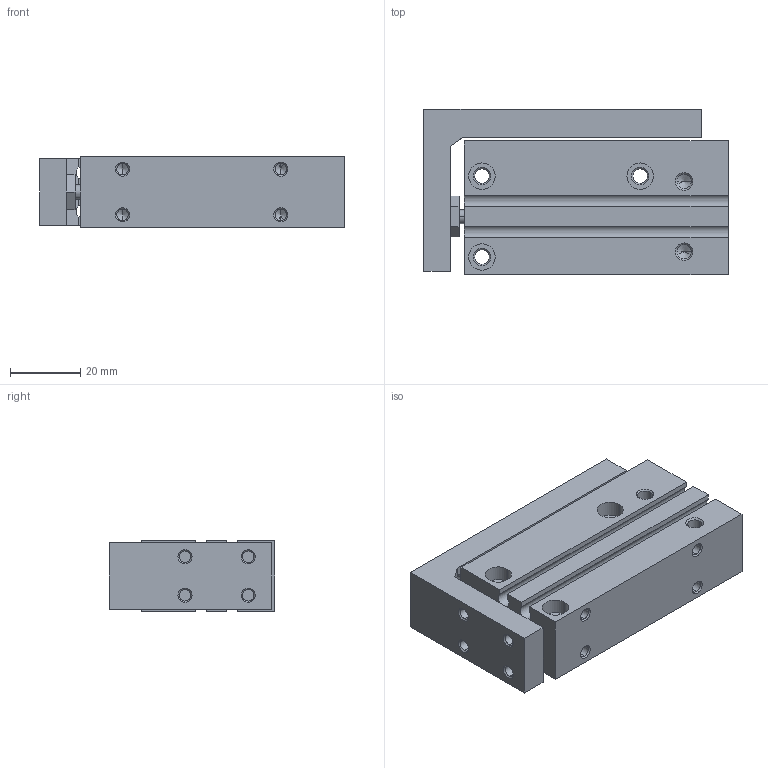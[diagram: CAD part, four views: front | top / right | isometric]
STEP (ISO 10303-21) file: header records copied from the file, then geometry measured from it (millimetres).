
FILE_DESCRIPTION (( 'STEP AP203' ), '1' );
FILE_NAME ('CXH10-40.STEP', '2020-04-16T18:08:08', ( '' ), ( '' ), 'SwSTEP 2.0', 'SolidWorks 2019', '' );
FILE_SCHEMA (( 'CONFIG_CONTROL_DESIGN' ));
Length unit declared in the file: millimetre
Products named in the file (1): CXH10-40
Bounding box: 86.5 x 47 x 20 mm (x, y, z)
Volume: 63808.1 mm3; surface area: 25136.2 mm2
Topology: 2 solids, 2 shells, 216 faces, 515 edges, 298 vertices
Faces by surface type: cone 92, cylinder 80, plane 44
Entity records: 6220 total; most frequent: DIRECTION 1141, CARTESIAN_POINT 1088, ORIENTED_EDGE 974, EDGE_CURVE 487, AXIS2_PLACEMENT_3D 441, VERTEX_POINT 298, EDGE_LOOP 265, VECTOR 259
